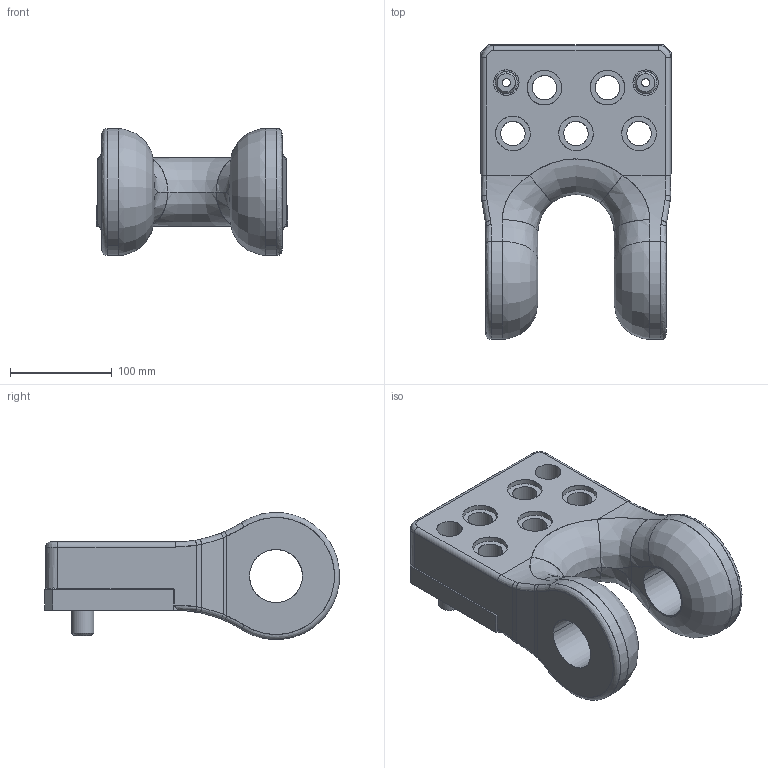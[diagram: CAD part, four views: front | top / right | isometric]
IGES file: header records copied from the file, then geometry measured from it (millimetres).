
Start section: START RECORD GO HERE.
Global section: file name: 395S-08000.igs; native system: DASSAULT SYSTEMES CATIA V5 R20 - www.3ds.com; preprocessor: CATIA Version 5 Release 20 ; author: Utente; organization: NB04-ASUS; date: 20200410.074835; units: millimetre
Bounding box: 188 x 289.93 x 124.83 mm (x, y, z)
Surface area: 217428.5 mm2 (no closed solid volume)
Topology: 0 solids, 0 shells, 141 faces, 659 edges, 663 vertices
Faces by surface type: revolution 89, plane 36, bspline 16
